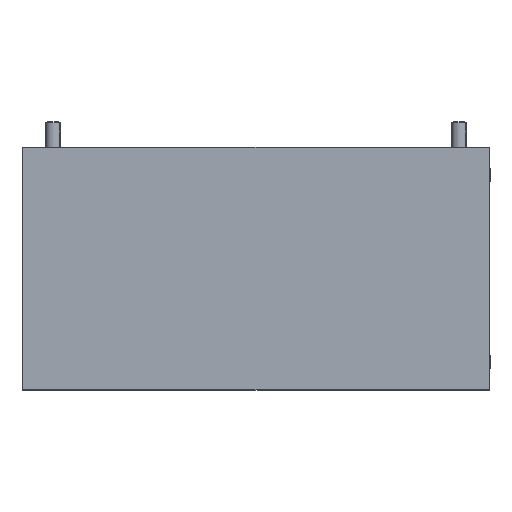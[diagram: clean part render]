
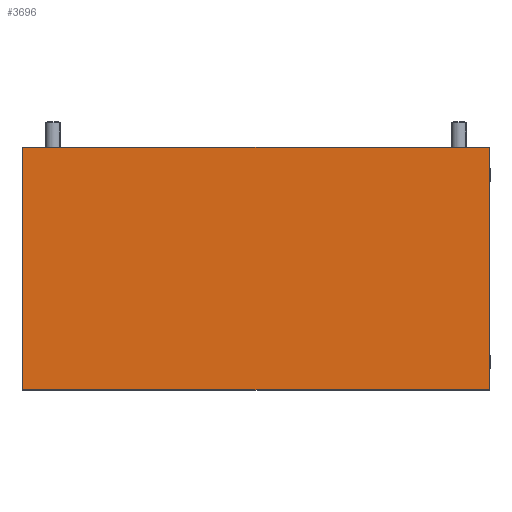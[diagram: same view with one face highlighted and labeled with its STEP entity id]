
A CAD part, top view. The second image highlights one B-rep face of the part: STEP entity #3696.
In plain terms, the highlighted planar face has unit normal (0, 0, 1) as drawn and (0, 0, -1) by its records, which use the part's own axes.
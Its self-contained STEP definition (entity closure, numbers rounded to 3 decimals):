
#224 = ORIENTED_EDGE ( 'NONE', *, *, #6530, .F. ) ;
#460 = CARTESIAN_POINT ( 'NONE',  ( 192.75, -100., -2.5 ) ) ;
#659 = LINE ( 'NONE', #12965, #2506 ) ;
#837 = AXIS2_PLACEMENT_3D ( 'NONE', #7019, #11191, #1853 ) ;
#1116 = LINE ( 'NONE', #5258, #8636 ) ;
#1516 = EDGE_LOOP ( 'NONE', ( #8307, #1963, #224, #10192 ) ) ;
#1739 = VERTEX_POINT ( 'NONE', #2743 ) ;
#1853 = DIRECTION ( 'NONE',  ( -1., 0., 0. ) ) ;
#1963 = ORIENTED_EDGE ( 'NONE', *, *, #6317, .F. ) ;
#1998 = LINE ( 'NONE', #5433, #7785 ) ;
#2506 = VECTOR ( 'NONE', #6820, 1000. ) ;
#2743 = CARTESIAN_POINT ( 'NONE',  ( 192.75, 100., -2.5 ) ) ;
#2875 = PLANE ( 'NONE',  #837 ) ;
#2924 = CARTESIAN_POINT ( 'NONE',  ( 192.75, 0., -2.5 ) ) ;
#2961 = VERTEX_POINT ( 'NONE', #460 ) ;
#3696 = ADVANCED_FACE ( 'NONE', ( #6884 ), #2875, .T. ) ;
#3785 = EDGE_CURVE ( 'NONE', #1739, #6298, #1998, .T. ) ;
#3861 = VERTEX_POINT ( 'NONE', #12057 ) ;
#3967 = LINE ( 'NONE', #2924, #7349 ) ;
#5056 = DIRECTION ( 'NONE',  ( -1., 0., 0. ) ) ;
#5258 = CARTESIAN_POINT ( 'NONE',  ( -192.75, 0., -2.5 ) ) ;
#5433 = CARTESIAN_POINT ( 'NONE',  ( 0., 100., -2.5 ) ) ;
#6298 = VERTEX_POINT ( 'NONE', #10099 ) ;
#6317 = EDGE_CURVE ( 'NONE', #3861, #2961, #659, .T. ) ;
#6530 = EDGE_CURVE ( 'NONE', #6298, #3861, #1116, .T. ) ;
#6820 = DIRECTION ( 'NONE',  ( 1., 0., 0. ) ) ;
#6884 = FACE_OUTER_BOUND ( 'NONE', #1516, .T. ) ;
#7019 = CARTESIAN_POINT ( 'NONE',  ( 0., 0., -2.5 ) ) ;
#7071 = DIRECTION ( 'NONE',  ( 0., 1., 0. ) ) ;
#7349 = VECTOR ( 'NONE', #7071, 1000. ) ;
#7785 = VECTOR ( 'NONE', #5056, 1000. ) ;
#8307 = ORIENTED_EDGE ( 'NONE', *, *, #11880, .F. ) ;
#8636 = VECTOR ( 'NONE', #10306, 1000. ) ;
#10099 = CARTESIAN_POINT ( 'NONE',  ( -192.75, 100., -2.5 ) ) ;
#10192 = ORIENTED_EDGE ( 'NONE', *, *, #3785, .F. ) ;
#10306 = DIRECTION ( 'NONE',  ( 0., -1., 0. ) ) ;
#11191 = DIRECTION ( 'NONE',  ( 0., 0., -1. ) ) ;
#11880 = EDGE_CURVE ( 'NONE', #2961, #1739, #3967, .T. ) ;
#12057 = CARTESIAN_POINT ( 'NONE',  ( -192.75, -100., -2.5 ) ) ;
#12965 = CARTESIAN_POINT ( 'NONE',  ( 0., -100., -2.5 ) ) ;
